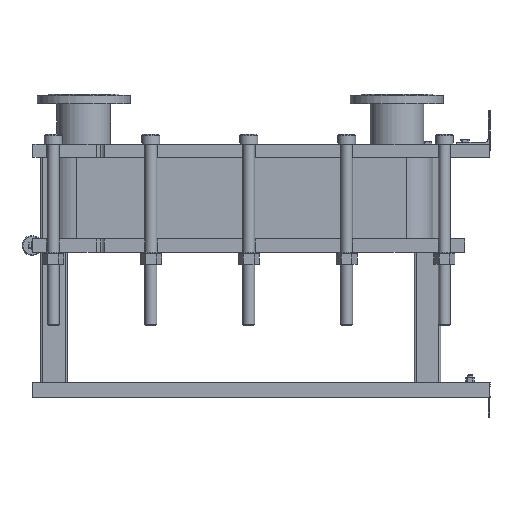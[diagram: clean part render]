
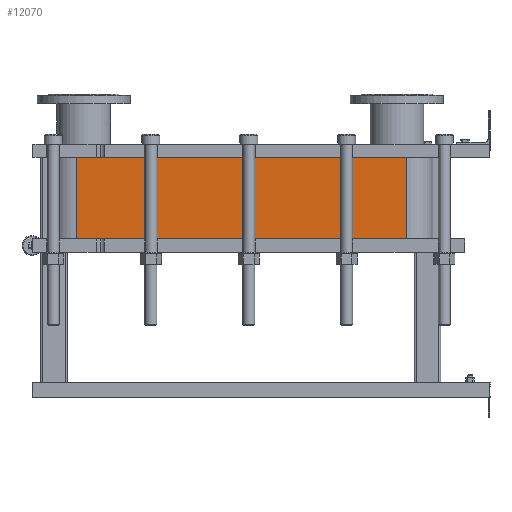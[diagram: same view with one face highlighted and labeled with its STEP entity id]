
A CAD part, left-side view. The second image highlights one B-rep face of the part: STEP entity #12070.
In plain terms, the highlighted planar face has unit normal (-1, 0, 0).
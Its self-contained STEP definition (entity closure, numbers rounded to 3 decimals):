
#1064=LINE('',#21140,#2164);
#1065=LINE('',#21144,#2165);
#1066=LINE('',#21146,#2166);
#1067=LINE('',#21147,#2167);
#2164=VECTOR('',#15790,10.);
#2165=VECTOR('',#15795,10.);
#2166=VECTOR('',#15796,10.);
#2167=VECTOR('',#15797,10.);
#3304=FACE_OUTER_BOUND('',#4091,.T.);
#4091=EDGE_LOOP('',(#9793,#9794,#9795,#9796));
#5677=VERTEX_POINT('',#21137);
#5678=VERTEX_POINT('',#21139);
#5679=VERTEX_POINT('',#21143);
#5680=VERTEX_POINT('',#21145);
#7118=EDGE_CURVE('',#5678,#5677,#1064,.T.);
#7120=EDGE_CURVE('',#5677,#5679,#1065,.T.);
#7121=EDGE_CURVE('',#5680,#5679,#1066,.T.);
#7122=EDGE_CURVE('',#5680,#5678,#1067,.T.);
#9793=ORIENTED_EDGE('',*,*,#7120,.T.);
#9794=ORIENTED_EDGE('',*,*,#7121,.F.);
#9795=ORIENTED_EDGE('',*,*,#7122,.T.);
#9796=ORIENTED_EDGE('',*,*,#7118,.T.);
#11441=PLANE('',#13191);
#12070=ADVANCED_FACE('',(#3304),#11441,.T.);
#13191=AXIS2_PLACEMENT_3D('',#21142,#15793,#15794);
#15790=DIRECTION('',(0.,0.,-1.));
#15793=DIRECTION('center_axis',(-1.,0.,0.));
#15794=DIRECTION('ref_axis',(0.,1.,0.));
#15795=DIRECTION('',(0.,-1.,0.));
#15796=DIRECTION('',(0.,0.,-1.));
#15797=DIRECTION('',(0.,1.,0.));
#21137=CARTESIAN_POINT('',(-248.152,1243.818,-244.95));
#21139=CARTESIAN_POINT('',(-248.152,1243.818,0.));
#21140=CARTESIAN_POINT('',(-248.152,1243.818,0.));
#21142=CARTESIAN_POINT('Origin',(-248.152,251.818,0.));
#21143=CARTESIAN_POINT('',(-248.152,251.818,-244.95));
#21144=CARTESIAN_POINT('',(-248.152,499.818,-244.95));
#21145=CARTESIAN_POINT('',(-248.152,251.818,0.));
#21146=CARTESIAN_POINT('',(-248.152,251.818,0.));
#21147=CARTESIAN_POINT('',(-248.152,251.818,0.));
